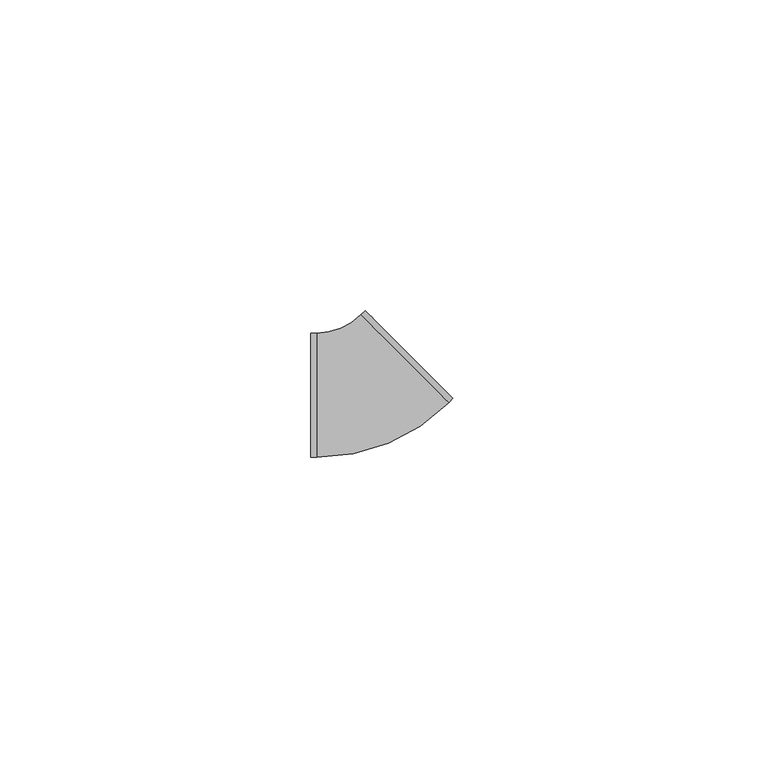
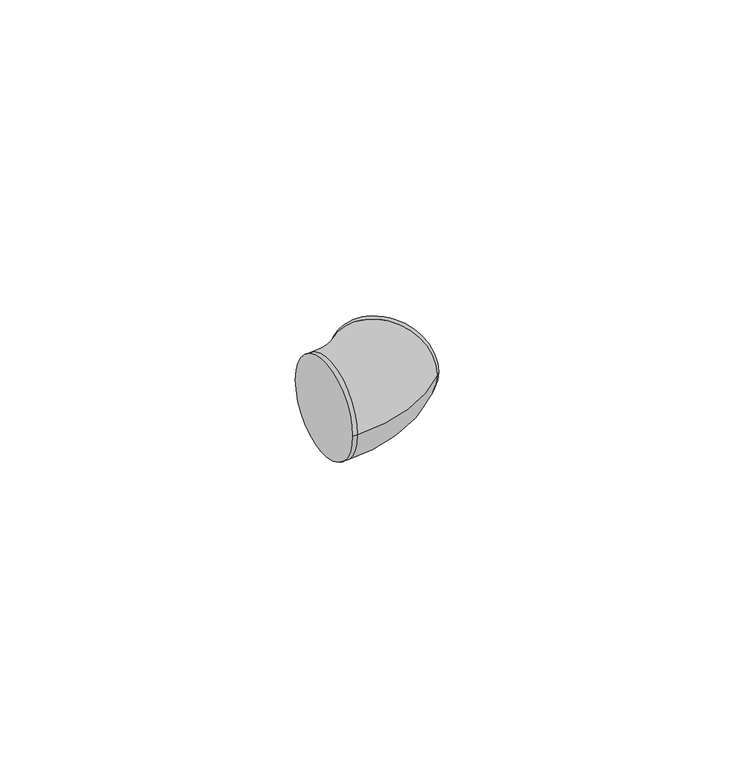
"""IFC4 building model written with IfcOpenShell, lengths in millimetres: cable carrier fitting geometry, ADSK_Поворот_Минимальный размер : Неспецифицируемый."""

from ifc_helpers import new_model, si_unit, point, frame, origin, place, context, project, spatial, circle_curve, ellipse_curve, trimmed, source, transform, mapped, element, save
from ifc_brep_helpers import plane_surface, cylinder_surface, revolved_surface, advanced_brep


def cable_carrier_fitting_73a83bcc(model_context):
    return source(origin(), model_context, "Body", "AdvancedBrep", [
        advanced_brep(
        [(-9.2843138, -10.0, 0.0), (-9.2843138, 10.0, 0.0), (-8.2843138, -10.0, 0.0), (-8.2843138, 10.0, 0.0), (-1.2132203, 12.9289578, 0.0), (12.9289667, -1.2131265, 0.0), (13.6360709, -0.5060171, 0.0), (-0.5061161, 13.6360672, 0.0)],
        [
            (0, 1, circle_curve(frame((-9.2843138, 0.0, 0.0), z_axis=(-1.0, -4.92260399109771e-12, 0.0), x_axis=(-4.92260399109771e-12, 1.0, 0.0)), 10.0)),
            (1, 0, circle_curve(frame((-9.2843138, 0.0, 0.0), z_axis=(-1.0, -4.92260399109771e-12, 0.0), x_axis=(-4.92260399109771e-12, 1.0, 0.0)), 10.0)),
            (0, 2),
            (2, 3, circle_curve(frame((-8.2843138, 0.0, 0.0), z_axis=(-1.0, -4.92260399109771e-12, 0.0), x_axis=(-4.92260399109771e-12, 1.0, 0.0)), 10.0)),
            (3, 1),
            (3, 2, circle_curve(frame((-8.2843138, 0.0, 0.0), z_axis=(-1.0, -4.92260399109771e-12, 0.0), x_axis=(-4.92260399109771e-12, 1.0, 0.0)), 10.0)),
            (4, 3, circle_curve(frame((-8.2843138, 20.0, 0.0), z_axis=(0.0, 0.0, -1.0), x_axis=(0.0, -1.0, 0.0)), 10.0)),
            (2, 5, circle_curve(frame((-8.2843138, 20.0, 0.0), z_axis=(0.0, 0.0, 1.0), x_axis=(0.0, -1.0, 0.0)), 30.0)),
            (5, 4, circle_curve(frame((5.8578732, 5.8579157, 0.0), z_axis=(-0.7071042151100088, -0.7071093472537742, 0.0), x_axis=(-0.7071093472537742, 0.7071042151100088, 0.0)), 10.0)),
            (4, 5, circle_curve(frame((5.8578732, 5.8579157, 0.0), z_axis=(-0.7071042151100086, -0.7071093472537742, 0.0), x_axis=(-0.7071093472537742, 0.7071042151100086, 0.0)), 10.0)),
            (6, 7, circle_curve(frame((6.5649774, 6.565025, 0.0), z_axis=(0.7071042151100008, 0.7071093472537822, 0.0), x_axis=(-0.7071093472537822, 0.7071042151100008, 0.0)), 10.0)),
            (7, 6, circle_curve(frame((6.5649774, 6.565025, 0.0), z_axis=(0.7071042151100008, 0.7071093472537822, 0.0), x_axis=(-0.7071093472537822, 0.7071042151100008, 0.0)), 10.0)),
            (5, 6),
            (7, 4),
        ],
        [
            plane_surface(frame((-9.2843138, 0.0, 0.0), z_axis=(-1.0, -4.92260399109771e-12, 0.0), x_axis=(0.0, 0.0, 1.0))),
            cylinder_surface(frame((-9.2843138, 0.0, 0.0), z_axis=(-1.0, -4.92260399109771e-12, 0.0), x_axis=(-4.92260399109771e-12, 1.0, 0.0)), 10.0),
            revolved_surface(trimmed(ellipse_curve(frame((-8.2843138, 0.0, 0.0), z_axis=(-1.0, 0.0, 0.0), x_axis=(0.0, 1.0, 0.0)), 10.0, 10.0), [point((-8.2843138, -10.0, 0.0))], [point((-8.2843138, 10.0, 0.0))], True, "CARTESIAN"), (-8.2843138, 20.0, 0.0), (0.0, 0.0, 1.0)),
            revolved_surface(trimmed(ellipse_curve(frame((-8.2843138, 0.0, 0.0), z_axis=(-1.0, 0.0, 0.0), x_axis=(0.0, 1.0, 0.0)), 10.0, 10.0), [point((-8.2843138, 10.0, 0.0))], [point((-8.2843138, -10.0, 0.0))], True, "CARTESIAN"), (-8.2843138, 20.0, 0.0), (0.0, 0.0, 1.0)),
            plane_surface(frame((6.5649774, 6.565025, 0.0), z_axis=(0.7071042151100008, 0.7071093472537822, 0.0), x_axis=(0.0, 0.0, 1.0))),
            cylinder_surface(frame((5.8578732, 5.8579157, 0.0), z_axis=(-0.7071042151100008, -0.7071093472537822, 0.0), x_axis=(-0.7071093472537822, 0.7071042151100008, 0.0)), 10.0),
        ],
        [
            (0, [[1, 2]]),
            (1, [[-1, 3, 4, 5]]),
            (1, [[-2, -5, 6, -3]]),
            (2, [[7, -4, 8, 9]]),
            (3, [[-8, -6, -7, 10]]),
            (4, [[11, 12]]),
            (5, [[-9, 13, -12, 14]]),
            (5, [[-10, -14, -11, -13]]),
        ],
    ),
    ])


if __name__ == "__main__":
    model = new_model("IFC4")
    model_context = context("Model", 3, world=origin())
    ifc_project = project(units=[si_unit("LENGTHUNIT", "METRE", prefix="MILLI")], contexts=[model_context])
    site = spatial("IfcSite", under=ifc_project)
    building = spatial("IfcBuilding", under=site)
    placement = place(None, origin())
    cable_carrier_fitting_shape = cable_carrier_fitting_73a83bcc(model_context)
    element("IfcCableCarrierFitting", 1, ObjectType="ADSK_Поворот_Минимальный размер : Неспецифицируемый", at=placement, inside=building, context=model_context, shape_type="MappedRepresentation", body=[
        mapped(cable_carrier_fitting_shape, transform((0.0, 0.0, 0.0), x_axis=(1.0, 0.0, 0.0), y_axis=(0.0, 1.0, 0.0), z_axis=(0.0, 0.0, 1.0))),
    ])
    save(model, "model.ifc")
